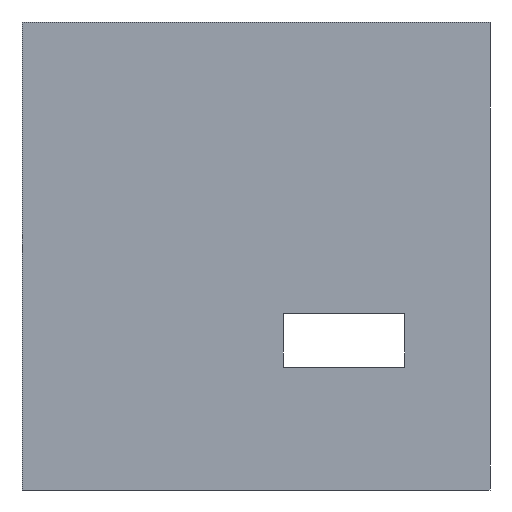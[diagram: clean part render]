
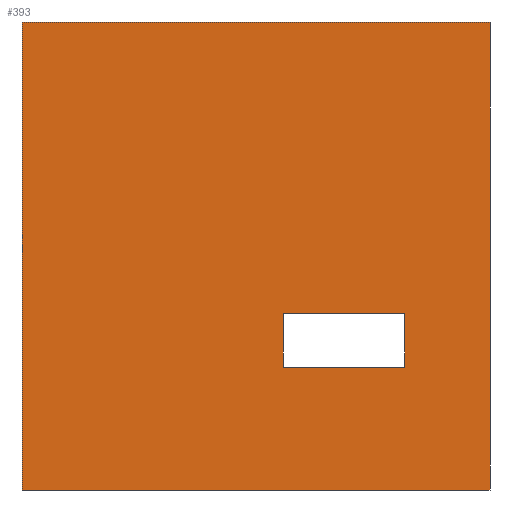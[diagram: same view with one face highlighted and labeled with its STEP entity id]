
A CAD part, left-side view. The second image highlights one B-rep face of the part: STEP entity #393.
In plain terms, the highlighted planar face has unit normal (-1, 0, 0).
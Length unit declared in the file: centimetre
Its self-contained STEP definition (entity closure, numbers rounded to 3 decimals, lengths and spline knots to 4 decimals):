
#21 = FACE_OUTER_BOUND ( 'NONE', #219, .T. ) ;
#47 = EDGE_CURVE ( 'NONE', #907, #957, #952, .T. ) ;
#58 = CARTESIAN_POINT ( 'NONE',  ( 0., 0., 0. ) ) ;
#69 = LINE ( 'NONE', #588, #489 ) ;
#107 = VECTOR ( 'NONE', #506, 100. ) ;
#110 = DIRECTION ( 'NONE',  ( 0., 0., -1. ) ) ;
#112 = DIRECTION ( 'NONE',  ( 0., -1., 0. ) ) ;
#117 = PLANE ( 'NONE',  #774 ) ;
#133 = CARTESIAN_POINT ( 'NONE',  ( 0., 181.6629, 376.6872 ) ) ;
#156 = ORIENTED_EDGE ( 'NONE', *, *, #414, .F. ) ;
#159 = CARTESIAN_POINT ( 'NONE',  ( 0., 442.2052, 376.6872 ) ) ;
#193 = LINE ( 'NONE', #864, #226 ) ;
#198 = CARTESIAN_POINT ( 'NONE',  ( 0., 442.2052, 262.5906 ) ) ;
#200 = DIRECTION ( 'NONE',  ( 0., 0., -1. ) ) ;
#206 = ORIENTED_EDGE ( 'NONE', *, *, #401, .F. ) ;
#217 = EDGE_LOOP ( 'NONE', ( #231, #156, #492, #206 ) ) ;
#219 = EDGE_LOOP ( 'NONE', ( #710, #251, #573, #828 ) ) ;
#226 = VECTOR ( 'NONE', #110, 100. ) ;
#231 = ORIENTED_EDGE ( 'NONE', *, *, #636, .F. ) ;
#251 = ORIENTED_EDGE ( 'NONE', *, *, #735, .F. ) ;
#269 = CARTESIAN_POINT ( 'NONE',  ( 0., 1000., 0. ) ) ;
#304 = VECTOR ( 'NONE', #200, 100. ) ;
#333 = DIRECTION ( 'NONE',  ( 0., -1., 0. ) ) ;
#363 = EDGE_CURVE ( 'NONE', #680, #836, #552, .T. ) ;
#386 = CARTESIAN_POINT ( 'NONE',  ( 0., 181.6629, 262.5906 ) ) ;
#393 = ADVANCED_FACE ( 'NONE', ( #875, #21 ), #117, .F. ) ;
#401 = EDGE_CURVE ( 'NONE', #585, #680, #800, .T. ) ;
#414 = EDGE_CURVE ( 'NONE', #836, #657, #804, .T. ) ;
#424 = CARTESIAN_POINT ( 'NONE',  ( 0., 442.2052, 262.5906 ) ) ;
#427 = LINE ( 'NONE', #269, #652 ) ;
#433 = VECTOR ( 'NONE', #495, 100. ) ;
#480 = DIRECTION ( 'NONE',  ( 1., 0., 0. ) ) ;
#489 = VECTOR ( 'NONE', #895, 100. ) ;
#492 = ORIENTED_EDGE ( 'NONE', *, *, #363, .F. ) ;
#495 = DIRECTION ( 'NONE',  ( 0., 1., 0. ) ) ;
#506 = DIRECTION ( 'NONE',  ( 0., -1., 0. ) ) ;
#526 = CARTESIAN_POINT ( 'NONE',  ( 0., 1000., 1000. ) ) ;
#552 = LINE ( 'NONE', #424, #700 ) ;
#568 = CARTESIAN_POINT ( 'NONE',  ( 0., 181.6629, 376.6872 ) ) ;
#573 = ORIENTED_EDGE ( 'NONE', *, *, #47, .F. ) ;
#585 = VERTEX_POINT ( 'NONE', #133 ) ;
#588 = CARTESIAN_POINT ( 'NONE',  ( 0., 181.6629, 262.5906 ) ) ;
#602 = EDGE_CURVE ( 'NONE', #907, #641, #822, .T. ) ;
#636 = EDGE_CURVE ( 'NONE', #657, #585, #69, .T. ) ;
#641 = VERTEX_POINT ( 'NONE', #838 ) ;
#652 = VECTOR ( 'NONE', #333, 100. ) ;
#657 = VERTEX_POINT ( 'NONE', #386 ) ;
#668 = CARTESIAN_POINT ( 'NONE',  ( 0., 0., 1000. ) ) ;
#680 = VERTEX_POINT ( 'NONE', #159 ) ;
#700 = VECTOR ( 'NONE', #953, 100. ) ;
#706 = EDGE_CURVE ( 'NONE', #641, #784, #427, .T. ) ;
#710 = ORIENTED_EDGE ( 'NONE', *, *, #706, .T. ) ;
#718 = DIRECTION ( 'NONE',  ( 0., 0., -1. ) ) ;
#722 = CARTESIAN_POINT ( 'NONE',  ( 0., 181.6629, 262.5906 ) ) ;
#735 = EDGE_CURVE ( 'NONE', #957, #784, #193, .T. ) ;
#743 = CARTESIAN_POINT ( 'NONE',  ( 0., 1000., 1000. ) ) ;
#774 = AXIS2_PLACEMENT_3D ( 'NONE', #881, #480, #718 ) ;
#784 = VERTEX_POINT ( 'NONE', #58 ) ;
#800 = LINE ( 'NONE', #568, #433 ) ;
#804 = LINE ( 'NONE', #722, #841 ) ;
#822 = LINE ( 'NONE', #901, #304 ) ;
#828 = ORIENTED_EDGE ( 'NONE', *, *, #602, .T. ) ;
#836 = VERTEX_POINT ( 'NONE', #198 ) ;
#838 = CARTESIAN_POINT ( 'NONE',  ( 0., 1000., 0. ) ) ;
#841 = VECTOR ( 'NONE', #112, 100. ) ;
#864 = CARTESIAN_POINT ( 'NONE',  ( 0., 0., 1000. ) ) ;
#875 = FACE_BOUND ( 'NONE', #217, .T. ) ;
#881 = CARTESIAN_POINT ( 'NONE',  ( 0., 1000., 1000. ) ) ;
#895 = DIRECTION ( 'NONE',  ( 0., 0., 1. ) ) ;
#901 = CARTESIAN_POINT ( 'NONE',  ( 0., 1000., 1000. ) ) ;
#907 = VERTEX_POINT ( 'NONE', #743 ) ;
#952 = LINE ( 'NONE', #526, #107 ) ;
#953 = DIRECTION ( 'NONE',  ( 0., 0., -1. ) ) ;
#957 = VERTEX_POINT ( 'NONE', #668 ) ;
